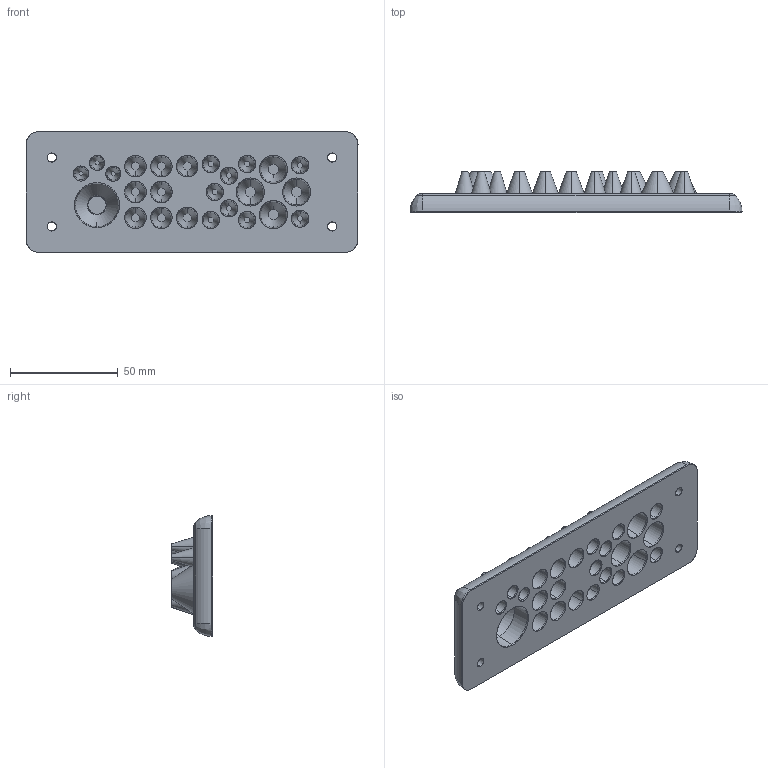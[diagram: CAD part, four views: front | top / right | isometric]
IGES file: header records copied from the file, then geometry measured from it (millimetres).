
Start section: SolidWorks IGES file using analytic representation for surfaces
Global section: file name: C:\Solidworks\omat tuotteet\Space charge models\Multigate\harting\IGES\106714.IGS; native system: SolidWorks 2016; preprocessor: SolidWorks 2016; author: joni.lehtonen; date: 160215.122436; units: millimetre
Bounding box: 154 x 19.25 x 56 mm (x, y, z)
Surface area: 33805.9 mm2 (no closed solid volume)
Topology: 0 solids, 0 shells, 301 faces, 4878 edges, 4876 vertices
Faces by surface type: revolution 224, bspline 77
